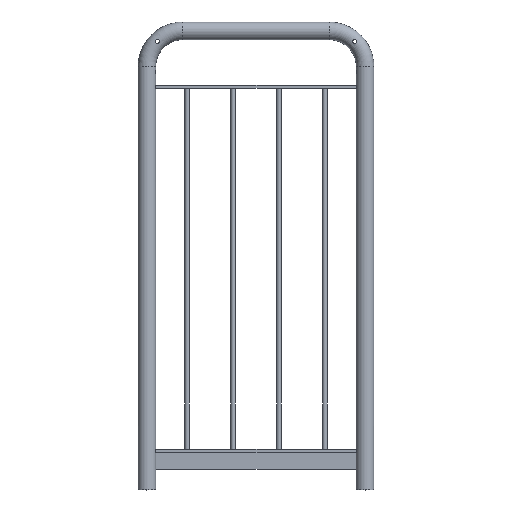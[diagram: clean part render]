
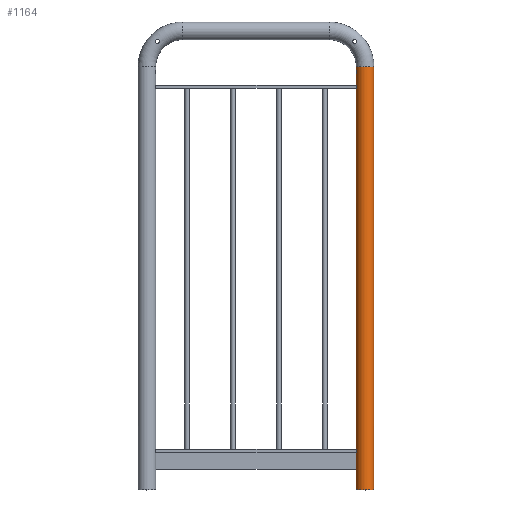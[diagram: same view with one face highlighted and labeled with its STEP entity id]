
A CAD part, top view. The second image highlights one B-rep face of the part: STEP entity #1164.
In plain terms, the highlighted cylindrical face has radius 21.2 mm (diameter 42.4 mm), a full revolution.
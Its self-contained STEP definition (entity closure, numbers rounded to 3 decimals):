
#288=CARTESIAN_POINT('',(502.526,1001.2,5.5));
#289=VERTEX_POINT('',#288);
#290=CARTESIAN_POINT('',(502.526,1001.2,5.5));
#291=CARTESIAN_POINT('',(502.526,1000.506,5.5));
#292=CARTESIAN_POINT('',(502.487,999.768,5.361));
#293=CARTESIAN_POINT('',(502.348,998.414,4.798));
#294=CARTESIAN_POINT('',(502.251,997.797,4.376));
#295=CARTESIAN_POINT('',(502.069,996.824,3.403));
#296=CARTESIAN_POINT('',(501.973,996.402,2.786));
#297=CARTESIAN_POINT('',(501.837,995.839,1.432));
#298=CARTESIAN_POINT('',(501.8,995.7,0.694));
#299=CARTESIAN_POINT('',(501.8,995.7,-0.694));
#300=CARTESIAN_POINT('',(501.837,995.839,-1.432));
#301=CARTESIAN_POINT('',(501.973,996.402,-2.786));
#302=CARTESIAN_POINT('',(502.069,996.824,-3.403));
#303=CARTESIAN_POINT('',(502.251,997.797,-4.376));
#304=CARTESIAN_POINT('',(502.348,998.414,-4.798));
#305=CARTESIAN_POINT('',(502.487,999.768,-5.361));
#306=CARTESIAN_POINT('',(502.526,1000.506,-5.5));
#307=CARTESIAN_POINT('',(502.526,1001.894,-5.5));
#308=CARTESIAN_POINT('',(502.487,1002.632,-5.361));
#309=CARTESIAN_POINT('',(502.348,1003.986,-4.798));
#310=CARTESIAN_POINT('',(502.251,1004.603,-4.376));
#311=CARTESIAN_POINT('',(502.069,1005.576,-3.403));
#312=CARTESIAN_POINT('',(501.973,1005.998,-2.786));
#313=CARTESIAN_POINT('',(501.837,1006.561,-1.432));
#314=CARTESIAN_POINT('',(501.8,1006.7,-0.694));
#315=CARTESIAN_POINT('',(501.8,1006.7,0.694));
#316=CARTESIAN_POINT('',(501.837,1006.561,1.432));
#317=CARTESIAN_POINT('',(501.973,1005.998,2.786));
#318=CARTESIAN_POINT('',(502.069,1005.576,3.403));
#319=CARTESIAN_POINT('',(502.251,1004.603,4.376));
#320=CARTESIAN_POINT('',(502.348,1003.986,4.798));
#321=CARTESIAN_POINT('',(502.487,1002.632,5.361));
#322=CARTESIAN_POINT('',(502.526,1001.894,5.5));
#323=CARTESIAN_POINT('',(502.526,1001.2,5.5));
#324=B_SPLINE_CURVE_WITH_KNOTS('',3,(#290,#291,#292,#293,#294,#295,#296,#297,#298,#299,#300,#301,#302,#303,#304,#305,#306,#307,#308,#309,#310,#311,#312,#313,#314,#315,#316,#317,#318,#319,#320,#321,#322,#323),.UNSPECIFIED.,.T.,.U.,(4,2,2,2,2,2,2,2,2,2,2,2,2,2,2,2,4),(0.0,0.208,0.416,0.625,0.833,1.041,1.249,1.457,1.666,1.874,2.082,2.29,2.498,2.707,2.915,3.123,3.331),.UNSPECIFIED.);
#325=EDGE_CURVE('',#289,#289,#324,.T.);
#417=CARTESIAN_POINT('',(543.474,1001.2,5.5));
#418=VERTEX_POINT('',#417);
#419=CARTESIAN_POINT('',(543.474,1001.2,5.5));
#420=CARTESIAN_POINT('',(543.474,1001.894,5.5));
#421=CARTESIAN_POINT('',(543.513,1002.632,5.361));
#422=CARTESIAN_POINT('',(543.652,1003.986,4.798));
#423=CARTESIAN_POINT('',(543.749,1004.603,4.376));
#424=CARTESIAN_POINT('',(543.931,1005.576,3.403));
#425=CARTESIAN_POINT('',(544.027,1005.998,2.786));
#426=CARTESIAN_POINT('',(544.163,1006.561,1.432));
#427=CARTESIAN_POINT('',(544.2,1006.7,0.694));
#428=CARTESIAN_POINT('',(544.2,1006.7,-0.694));
#429=CARTESIAN_POINT('',(544.163,1006.561,-1.432));
#430=CARTESIAN_POINT('',(544.027,1005.998,-2.786));
#431=CARTESIAN_POINT('',(543.931,1005.576,-3.403));
#432=CARTESIAN_POINT('',(543.749,1004.603,-4.376));
#433=CARTESIAN_POINT('',(543.652,1003.986,-4.798));
#434=CARTESIAN_POINT('',(543.513,1002.632,-5.361));
#435=CARTESIAN_POINT('',(543.474,1001.894,-5.5));
#436=CARTESIAN_POINT('',(543.474,1000.506,-5.5));
#437=CARTESIAN_POINT('',(543.513,999.768,-5.361));
#438=CARTESIAN_POINT('',(543.652,998.414,-4.798));
#439=CARTESIAN_POINT('',(543.749,997.797,-4.376));
#440=CARTESIAN_POINT('',(543.931,996.824,-3.403));
#441=CARTESIAN_POINT('',(544.027,996.402,-2.786));
#442=CARTESIAN_POINT('',(544.163,995.839,-1.432));
#443=CARTESIAN_POINT('',(544.2,995.7,-0.694));
#444=CARTESIAN_POINT('',(544.2,995.7,0.694));
#445=CARTESIAN_POINT('',(544.163,995.839,1.432));
#446=CARTESIAN_POINT('',(544.027,996.402,2.786));
#447=CARTESIAN_POINT('',(543.931,996.824,3.403));
#448=CARTESIAN_POINT('',(543.749,997.797,4.376));
#449=CARTESIAN_POINT('',(543.652,998.414,4.798));
#450=CARTESIAN_POINT('',(543.513,999.768,5.361));
#451=CARTESIAN_POINT('',(543.474,1000.506,5.5));
#452=CARTESIAN_POINT('',(543.474,1001.2,5.5));
#453=B_SPLINE_CURVE_WITH_KNOTS('',3,(#419,#420,#421,#422,#423,#424,#425,#426,#427,#428,#429,#430,#431,#432,#433,#434,#435,#436,#437,#438,#439,#440,#441,#442,#443,#444,#445,#446,#447,#448,#449,#450,#451,#452),.UNSPECIFIED.,.T.,.U.,(4,2,2,2,2,2,2,2,2,2,2,2,2,2,2,2,4),(0.0,0.208,0.416,0.625,0.833,1.041,1.249,1.457,1.666,1.874,2.082,2.29,2.498,2.707,2.915,3.123,3.331),.UNSPECIFIED.);
#454=EDGE_CURVE('',#418,#418,#453,.T.);
#1131=CARTESIAN_POINT('',(523.,1013.5,0.0));
#1132=DIRECTION('',(0.,-1.0,0.0));
#1133=DIRECTION('',(-1.0,0.0,0.0));
#1134=AXIS2_PLACEMENT_3D('',#1131,#1132,#1133);
#1135=CYLINDRICAL_SURFACE('',#1134,21.2);
#1136=CARTESIAN_POINT('',(544.2,0.0,0.));
#1137=VERTEX_POINT('',#1136);
#1138=CARTESIAN_POINT('',(523.0,0.0,0.0));
#1139=DIRECTION('',(0.0,1.0,0.0));
#1140=DIRECTION('',(-1.0,0.0,0.0));
#1141=AXIS2_PLACEMENT_3D('',#1138,#1139,#1140);
#1142=CIRCLE('',#1141,21.2);
#1143=EDGE_CURVE('',#1137,#1137,#1142,.T.);
#1144=ORIENTED_EDGE('',*,*,#1143,.T.);
#1145=EDGE_LOOP('',(#1144));
#1146=FACE_OUTER_BOUND('',#1145,.T.);
#1147=ORIENTED_EDGE('',*,*,#454,.T.);
#1148=EDGE_LOOP('',(#1147));
#1149=FACE_BOUND('',#1148,.T.);
#1150=ORIENTED_EDGE('',*,*,#325,.T.);
#1151=EDGE_LOOP('',(#1150));
#1152=FACE_BOUND('',#1151,.T.);
#1153=CARTESIAN_POINT('',(544.2,1013.5,0.));
#1154=VERTEX_POINT('',#1153);
#1155=CARTESIAN_POINT('',(523.,1013.5,0.0));
#1156=DIRECTION('',(0.0,1.0,0.0));
#1157=DIRECTION('',(-1.0,0.0,0.0));
#1158=AXIS2_PLACEMENT_3D('',#1155,#1156,#1157);
#1159=CIRCLE('',#1158,21.2);
#1160=EDGE_CURVE('',#1154,#1154,#1159,.T.);
#1161=ORIENTED_EDGE('',*,*,#1160,.F.);
#1162=EDGE_LOOP('',(#1161));
#1163=FACE_BOUND('',#1162,.T.);
#1164=ADVANCED_FACE('',(#1146,#1149,#1152,#1163),#1135,.T.);
